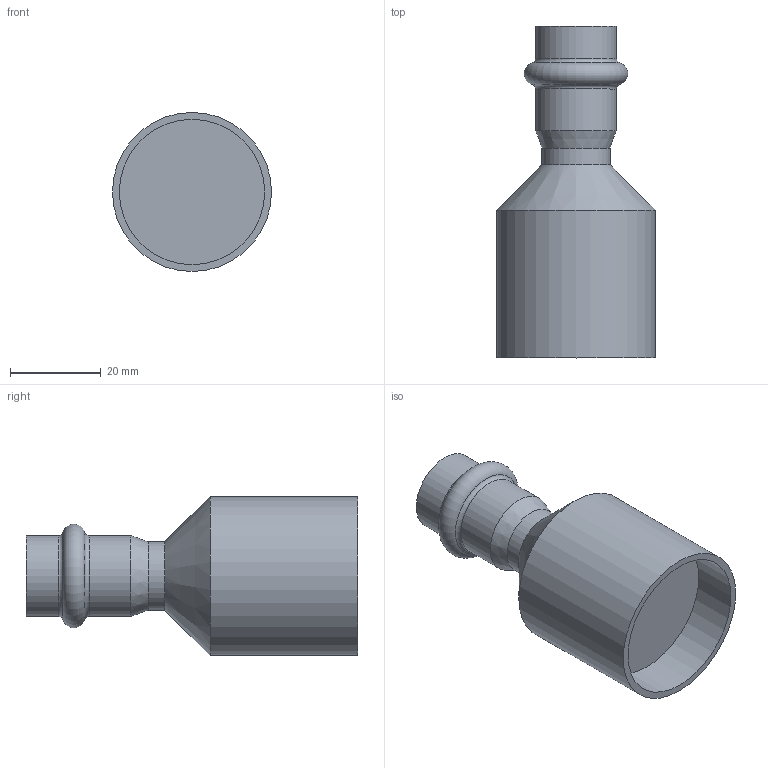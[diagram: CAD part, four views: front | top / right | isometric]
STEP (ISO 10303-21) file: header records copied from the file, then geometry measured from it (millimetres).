
FILE_DESCRIPTION(('STEP AP203'), '1');
FILE_NAME('VTi.905.I.003515', '', ('UNSPECIFIED'), ('UNSPECIFIED'), 'C3D Converter', 'C3D Toolkit', '');
FILE_SCHEMA(('CONFIG_CONTROL_DESIGN'));
Length unit declared in the file: millimetre
Bounding box: 35 x 73 x 35 mm (x, y, z)
Volume: 34895.9 mm3; surface area: 9118.9 mm2
Topology: 1 solids, 1 shells, 15 faces, 26 edges, 15 vertices
Faces by surface type: cylinder 6, plane 4, torus 3, cone 2
Full cylindrical faces by diameter (mm): 15 x1, 15.3 x1, 17.8 x2, 32 x1, 35 x1
Entity records: 344 total; most frequent: DIRECTION 62, CARTESIAN_POINT 46, AXIS2_PLACEMENT_3D 31, ORIENTED_EDGE 30, EDGE_LOOP 28, FACE_OUTER_BOUND 20, ADVANCED_FACE 15, EDGE_CURVE 15
